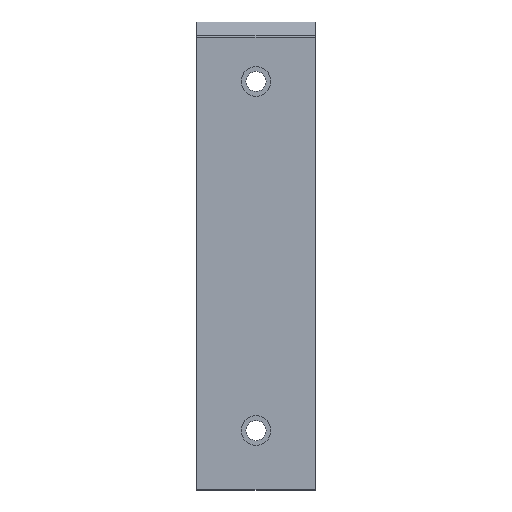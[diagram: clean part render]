
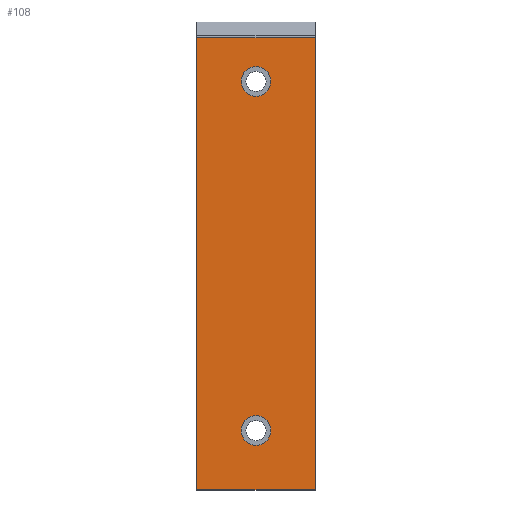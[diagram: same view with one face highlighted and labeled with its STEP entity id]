
A CAD part, top view. The second image highlights one B-rep face of the part: STEP entity #108.
In plain terms, the highlighted planar face has unit normal (0, 0, 1).
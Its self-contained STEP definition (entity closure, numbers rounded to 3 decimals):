
#4 = EDGE_CURVE ( 'NONE', #98, #266, #50, .T. ) ;
#8 = CARTESIAN_POINT ( 'NONE',  ( -50., 275., 20. ) ) ;
#22 = CARTESIAN_POINT ( 'NONE',  ( -30., 40., 20. ) ) ;
#26 = CARTESIAN_POINT ( 'NONE',  ( -40., 275., 20. ) ) ;
#33 = FACE_BOUND ( 'NONE', #99, .T. ) ;
#37 = ORIENTED_EDGE ( 'NONE', *, *, #569, .F. ) ;
#38 = CARTESIAN_POINT ( 'NONE',  ( 0., 0., 20. ) ) ;
#49 = AXIS2_PLACEMENT_3D ( 'NONE', #38, #279, #323 ) ;
#50 = LINE ( 'NONE', #503, #413 ) ;
#51 = CIRCLE ( 'NONE', #489, 10. ) ;
#53 = ORIENTED_EDGE ( 'NONE', *, *, #4, .T. ) ;
#68 = FACE_OUTER_BOUND ( 'NONE', #400, .T. ) ;
#98 = VERTEX_POINT ( 'NONE', #223 ) ;
#99 = EDGE_LOOP ( 'NONE', ( #511, #113 ) ) ;
#108 = ADVANCED_FACE ( 'NONE', ( #68, #33, #190 ), #126, .T. ) ;
#111 = CARTESIAN_POINT ( 'NONE',  ( -40., 40., 20. ) ) ;
#113 = ORIENTED_EDGE ( 'NONE', *, *, #134, .F. ) ;
#115 = DIRECTION ( 'NONE',  ( 1., 0., 0. ) ) ;
#126 = PLANE ( 'NONE',  #49 ) ;
#134 = EDGE_CURVE ( 'NONE', #557, #403, #476, .T. ) ;
#136 = CARTESIAN_POINT ( 'NONE',  ( -50., 40., 20. ) ) ;
#148 = DIRECTION ( 'NONE',  ( 1., 0., 0. ) ) ;
#151 = DIRECTION ( 'NONE',  ( 0., 0., 1. ) ) ;
#168 = CARTESIAN_POINT ( 'NONE',  ( -40., 40., 20. ) ) ;
#186 = CARTESIAN_POINT ( 'NONE',  ( -40., 0., 20. ) ) ;
#190 = FACE_BOUND ( 'NONE', #538, .T. ) ;
#194 = DIRECTION ( 'NONE',  ( 0., 0., 1. ) ) ;
#196 = DIRECTION ( 'NONE',  ( 1., 0., 0. ) ) ;
#206 = ORIENTED_EDGE ( 'NONE', *, *, #407, .F. ) ;
#210 = ORIENTED_EDGE ( 'NONE', *, *, #220, .F. ) ;
#220 = EDGE_CURVE ( 'NONE', #587, #501, #429, .T. ) ;
#223 = CARTESIAN_POINT ( 'NONE',  ( -80., 304.342, 20. ) ) ;
#224 = CARTESIAN_POINT ( 'NONE',  ( 0., 152.171, 20. ) ) ;
#231 = CARTESIAN_POINT ( 'NONE',  ( -80., 0., 20. ) ) ;
#233 = VECTOR ( 'NONE', #518, 1000. ) ;
#242 = DIRECTION ( 'NONE',  ( 0., 0., 1. ) ) ;
#250 = EDGE_CURVE ( 'NONE', #501, #266, #294, .T. ) ;
#266 = VERTEX_POINT ( 'NONE', #231 ) ;
#274 = ORIENTED_EDGE ( 'NONE', *, *, #598, .T. ) ;
#279 = DIRECTION ( 'NONE',  ( 0., 0., 1. ) ) ;
#282 = EDGE_CURVE ( 'NONE', #403, #557, #428, .T. ) ;
#294 = LINE ( 'NONE', #186, #328 ) ;
#323 = DIRECTION ( 'NONE',  ( 1., 0., 0. ) ) ;
#328 = VECTOR ( 'NONE', #527, 1000. ) ;
#347 = AXIS2_PLACEMENT_3D ( 'NONE', #26, #376, #115 ) ;
#354 = AXIS2_PLACEMENT_3D ( 'NONE', #168, #151, #148 ) ;
#364 = CIRCLE ( 'NONE', #354, 10. ) ;
#376 = DIRECTION ( 'NONE',  ( 0., 0., 1. ) ) ;
#382 = DIRECTION ( 'NONE',  ( 0., -1., 0. ) ) ;
#398 = VECTOR ( 'NONE', #495, 1000. ) ;
#400 = EDGE_LOOP ( 'NONE', ( #53, #445, #210, #274 ) ) ;
#403 = VERTEX_POINT ( 'NONE', #8 ) ;
#407 = EDGE_CURVE ( 'NONE', #421, #502, #364, .T. ) ;
#413 = VECTOR ( 'NONE', #382, 1000. ) ;
#421 = VERTEX_POINT ( 'NONE', #136 ) ;
#428 = CIRCLE ( 'NONE', #611, 10. ) ;
#429 = LINE ( 'NONE', #224, #233 ) ;
#440 = CARTESIAN_POINT ( 'NONE',  ( 0., 304.342, 20. ) ) ;
#445 = ORIENTED_EDGE ( 'NONE', *, *, #250, .F. ) ;
#451 = DIRECTION ( 'NONE',  ( 1., 0., 0. ) ) ;
#476 = CIRCLE ( 'NONE', #347, 10. ) ;
#489 = AXIS2_PLACEMENT_3D ( 'NONE', #111, #242, #196 ) ;
#495 = DIRECTION ( 'NONE',  ( -1., 0., 0. ) ) ;
#501 = VERTEX_POINT ( 'NONE', #578 ) ;
#502 = VERTEX_POINT ( 'NONE', #22 ) ;
#503 = CARTESIAN_POINT ( 'NONE',  ( -80., 152.171, 20. ) ) ;
#511 = ORIENTED_EDGE ( 'NONE', *, *, #282, .F. ) ;
#518 = DIRECTION ( 'NONE',  ( 0., -1., 0. ) ) ;
#527 = DIRECTION ( 'NONE',  ( -1., 0., 0. ) ) ;
#535 = CARTESIAN_POINT ( 'NONE',  ( -30., 275., 20. ) ) ;
#536 = LINE ( 'NONE', #610, #398 ) ;
#538 = EDGE_LOOP ( 'NONE', ( #206, #37 ) ) ;
#555 = CARTESIAN_POINT ( 'NONE',  ( -40., 275., 20. ) ) ;
#557 = VERTEX_POINT ( 'NONE', #535 ) ;
#569 = EDGE_CURVE ( 'NONE', #502, #421, #51, .T. ) ;
#578 = CARTESIAN_POINT ( 'NONE',  ( 0., 0., 20. ) ) ;
#587 = VERTEX_POINT ( 'NONE', #440 ) ;
#598 = EDGE_CURVE ( 'NONE', #587, #98, #536, .T. ) ;
#610 = CARTESIAN_POINT ( 'NONE',  ( -40., 304.342, 20. ) ) ;
#611 = AXIS2_PLACEMENT_3D ( 'NONE', #555, #194, #451 ) ;
